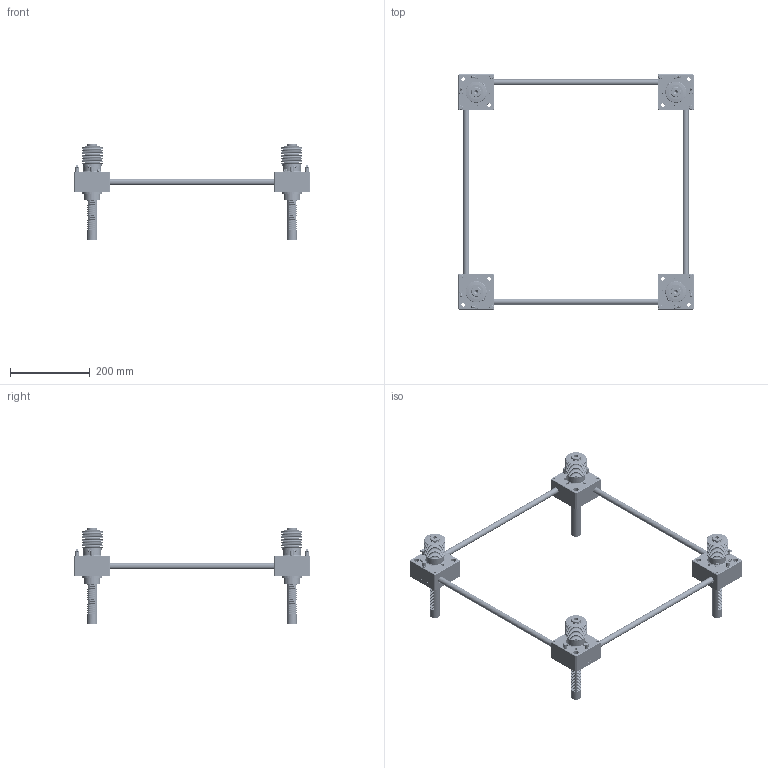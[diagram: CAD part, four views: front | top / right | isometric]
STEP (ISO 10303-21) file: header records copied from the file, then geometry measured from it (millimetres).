
FILE_DESCRIPTION(('STEP AP203'),'1');
FILE_NAME('SP500CJ-500x500-100ST.stp','2016-08-09T08:42:07',(' '),(' '),'Spatial InterOp 3D',' ',' ');
FILE_SCHEMA(('CONFIG_CONTROL_DESIGN'));
Length unit declared in the file: millimetre
Products named in the file (72): SP500CJ-500x500-100ST; Rack Gear(SP-500C); SnapRing-23.8Pie; Bellow(SP-500); Body.1-Part; Nipple; Bolt; Gear Box.1(Upper); Gear Box.1(Lower); RJ05-4SCJ-610X600-100ST_CAP; LABEL-B.1; ___; 파트18; __ SP500; Body.2-Part; Gear Box.2(Upper); Gear Box.2(Lower); Body.3-Part; Gear Box.3(Upper); Gear Box.3(Lower); Body.4-Part; Gear Box.4(Upper); Gear Box.4(Lower); 파트51
Assembly tree (76 placements, depth 6):
  SP500CJ-500x500-100ST
    Rack Gear(SP-500C)  x4
    SnapRing-23.8Pie
    SnapRing-23.8Pie
    SnapRing-23.8Pie
    SnapRing-23.8Pie
    Bellow(SP-500)
    Bellow(SP-500)
    Bellow(SP-500)
    Bellow(SP-500)
    Body.1-Part
      Nipple
      Nipple
      Bolt
      Bolt
      Bolt
      Bolt
      Bolt
      Gear Box.1(Upper)
      Gear Box.1(Lower)
      __ SP500
        ___
          RJ05-4SCJ-610X600-100ST_CAP
            LABEL-B.1
          파트18
    Body.2-Part
      Nipple
      Nipple
      Bolt
      Bolt
      Bolt
      Bolt
      Bolt
      Gear Box.2(Upper)
      Gear Box.2(Lower)
      __ SP500
        ___
          RJ05-4SCJ-610X600-100ST_CAP
            LABEL-B.1
          파트18
    Body.3-Part
      Nipple
      Nipple
      Bolt
      Bolt
      Bolt
      Bolt
      Bolt
      Gear Box.3(Upper)
      Gear Box.3(Lower)
      __ SP500
        ___
          RJ05-4SCJ-610X600-100ST_CAP
            LABEL-B.1
          파트18
    Body.4-Part
      Nipple
      Nipple
      Bolt
      Bolt
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Bounding box: 590.32 x 590.32 x 240 mm (x, y, z)
Volume: 1977469.1 mm3; surface area: 855279.9 mm2
Topology: 88 solids, 88 shells, 9496 faces, 26430 edges, 17434 vertices
Faces by surface type: plane 8144, cylinder 616, cone 304, revolution 168, extrusion 152, torus 88, bspline 20, sphere 4
Full cylindrical faces by diameter (mm): 1.587 x8, 4.8 x8, 6 x48, 7 x20, 9 x16, 9.886 x8, 10 x4, 10.5 x40, 13.5 x8, 15 x4, 23.8 x4, 25 x56, 26 x8, 28 x8, 28.3 x8, 29.5 x8, 41.5 x4, 42.5 x4, 45 x12, 47 x4, 50 x4
Entity records: 280050 total; most frequent: CARTESIAN_POINT 55715, ORIENTED_EDGE 47464, DIRECTION 41648, EDGE_CURVE 23732, VECTOR 21644, LINE 21492, VERTEX_POINT 15977, AXIS2_PLACEMENT_3D 9918
